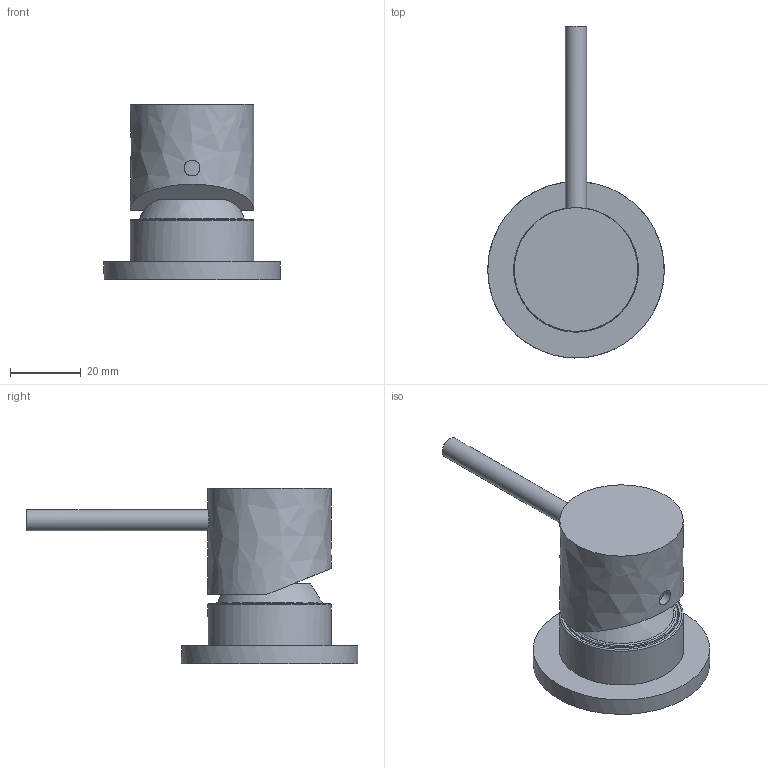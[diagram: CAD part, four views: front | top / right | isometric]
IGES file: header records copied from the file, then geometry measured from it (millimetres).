
Global section: file name: PR52AW211; native system: Autodesk Inventor 2017; preprocessor: unknown; author: PIZZERA; date: 20210408.133350; units: millimetre
Bounding box: 49.99 x 94 x 49.6 mm (x, y, z)
Volume: 52299 mm3; surface area: 11627.2 mm2
Topology: 1 solids, 1 shells, 27 faces, 60 edges, 44 vertices
Faces by surface type: bspline 27
